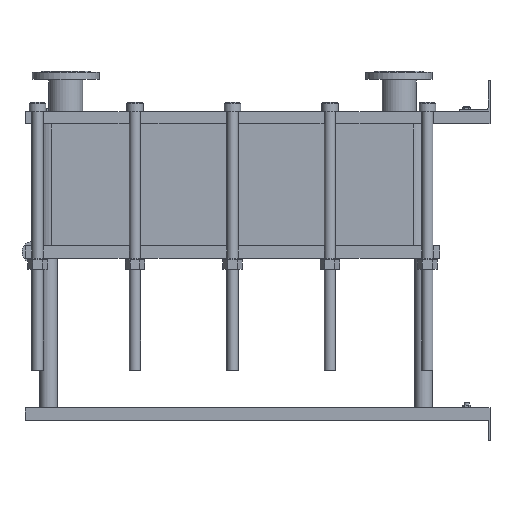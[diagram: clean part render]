
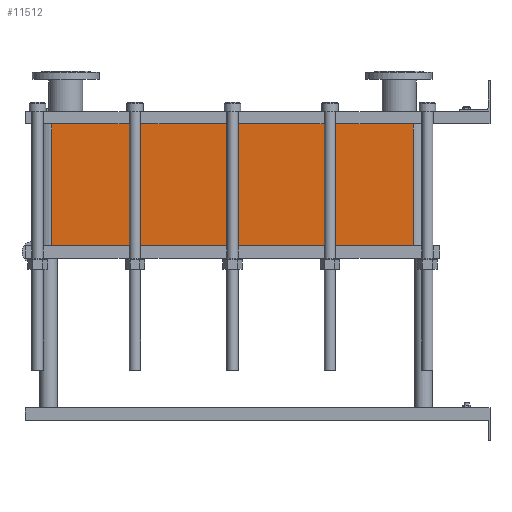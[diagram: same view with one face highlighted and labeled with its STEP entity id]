
A CAD part, left-side view. The second image highlights one B-rep face of the part: STEP entity #11512.
In plain terms, the highlighted planar face has unit normal (-1, 0, 0).
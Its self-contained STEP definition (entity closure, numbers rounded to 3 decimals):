
#1129=LINE('',#23232,#2102);
#1130=LINE('',#23236,#2103);
#1131=LINE('',#23238,#2104);
#1132=LINE('',#23239,#2105);
#2102=VECTOR('',#15887,10.);
#2103=VECTOR('',#15892,10.);
#2104=VECTOR('',#15893,10.);
#2105=VECTOR('',#15894,10.);
#3267=FACE_OUTER_BOUND('',#4093,.T.);
#4093=EDGE_LOOP('',(#10103,#10104,#10105,#10106));
#5642=VERTEX_POINT('',#23229);
#5643=VERTEX_POINT('',#23231);
#5644=VERTEX_POINT('',#23235);
#5645=VERTEX_POINT('',#23237);
#7159=EDGE_CURVE('',#5643,#5642,#1129,.T.);
#7161=EDGE_CURVE('',#5642,#5644,#1130,.T.);
#7162=EDGE_CURVE('',#5645,#5644,#1131,.T.);
#7163=EDGE_CURVE('',#5645,#5643,#1132,.T.);
#10103=ORIENTED_EDGE('',*,*,#7161,.T.);
#10104=ORIENTED_EDGE('',*,*,#7162,.F.);
#10105=ORIENTED_EDGE('',*,*,#7163,.T.);
#10106=ORIENTED_EDGE('',*,*,#7159,.T.);
#10857=PLANE('',#12751);
#11512=ADVANCED_FACE('',(#3267),#10857,.T.);
#12751=AXIS2_PLACEMENT_3D('',#23234,#15890,#15891);
#15887=DIRECTION('',(0.,0.,-1.));
#15890=DIRECTION('center_axis',(-1.,0.,0.));
#15891=DIRECTION('ref_axis',(0.,1.,0.));
#15892=DIRECTION('',(0.,-1.,0.));
#15893=DIRECTION('',(0.,0.,-1.));
#15894=DIRECTION('',(0.,1.,0.));
#23229=CARTESIAN_POINT('',(-200.,1414.,-393.3));
#23231=CARTESIAN_POINT('',(-200.,1414.,0.));
#23232=CARTESIAN_POINT('',(-200.,1414.,0.));
#23234=CARTESIAN_POINT('Origin',(-200.,248.,0.));
#23235=CARTESIAN_POINT('',(-200.,248.,-393.3));
#23236=CARTESIAN_POINT('',(-200.,539.5,-393.3));
#23237=CARTESIAN_POINT('',(-200.,248.,0.));
#23238=CARTESIAN_POINT('',(-200.,248.,0.));
#23239=CARTESIAN_POINT('',(-200.,248.,0.));
